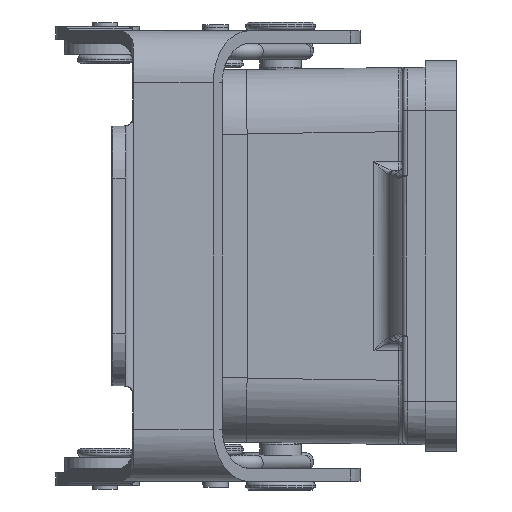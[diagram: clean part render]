
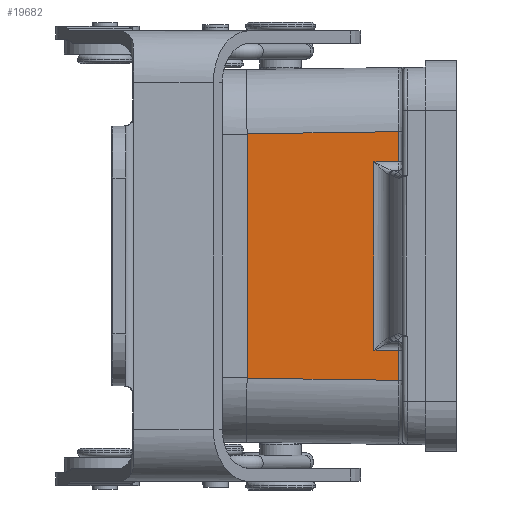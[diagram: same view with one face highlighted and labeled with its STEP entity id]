
A CAD part, left-side view. The second image highlights one B-rep face of the part: STEP entity #19682.
In plain terms, the highlighted planar face has unit normal (-1, 0.014, 0).
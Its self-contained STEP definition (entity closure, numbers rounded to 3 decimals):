
#62 = CARTESIAN_POINT ( 'NONE',  ( -46.832, 16.098, -14.183 ) ) ;
#792 = EDGE_LOOP ( 'NONE', ( #30893, #11437, #31964, #22541, #5954, #8184, #7617, #6852 ) ) ;
#2066 = EDGE_CURVE ( 'NONE', #3190, #6887, #24620, .T. ) ;
#3190 = VERTEX_POINT ( 'NONE', #5761 ) ;
#4366 = VERTEX_POINT ( 'NONE', #4445 ) ;
#4445 = CARTESIAN_POINT ( 'NONE',  ( -46.994, 4.493, 14.345 ) ) ;
#4811 = DIRECTION ( 'NONE',  ( 0., 0., -1. ) ) ;
#4868 = LINE ( 'NONE', #28540, #20600 ) ;
#5203 = VECTOR ( 'NONE', #18786, 1000. ) ;
#5321 = DIRECTION ( 'NONE',  ( -0.014, -1., 0.014 ) ) ;
#5761 = CARTESIAN_POINT ( 'NONE',  ( -46.994, 4.493, -14.345 ) ) ;
#5954 = ORIENTED_EDGE ( 'NONE', *, *, #20522, .T. ) ;
#6852 = ORIENTED_EDGE ( 'NONE', *, *, #20881, .T. ) ;
#6887 = VERTEX_POINT ( 'NONE', #18365 ) ;
#7617 = ORIENTED_EDGE ( 'NONE', *, *, #23057, .T. ) ;
#7979 = CARTESIAN_POINT ( 'NONE',  ( -46.746, 22.211, 14.098 ) ) ;
#8184 = ORIENTED_EDGE ( 'NONE', *, *, #27362, .T. ) ;
#8290 = CARTESIAN_POINT ( 'NONE',  ( -46.913, 10.295, -14.264 ) ) ;
#8713 = PLANE ( 'NONE',  #16619 ) ;
#8868 = VECTOR ( 'NONE', #30667, 1000. ) ;
#9817 = CARTESIAN_POINT ( 'NONE',  ( -46.994, 4.493, -10.869 ) ) ;
#10267 = LINE ( 'NONE', #7979, #20045 ) ;
#10346 = VERTEX_POINT ( 'NONE', #9817 ) ;
#10631 = VERTEX_POINT ( 'NONE', #14102 ) ;
#11437 = ORIENTED_EDGE ( 'NONE', *, *, #30558, .T. ) ;
#11626 = DIRECTION ( 'NONE',  ( -0.014, -1., 0. ) ) ;
#12082 = LINE ( 'NONE', #18650, #5203 ) ;
#12102 = CARTESIAN_POINT ( 'NONE',  ( -46.954, 7.324, -23.975 ) ) ;
#12516 = LINE ( 'NONE', #31359, #31158 ) ;
#13722 = CARTESIAN_POINT ( 'NONE',  ( -46.751, 21.9, 14.102 ) ) ;
#14097 = DIRECTION ( 'NONE',  ( 0.014, 1., 0. ) ) ;
#14102 = CARTESIAN_POINT ( 'NONE',  ( -46.994, 4.493, 10.869 ) ) ;
#14551 = DIRECTION ( 'NONE',  ( 0., 0., 1. ) ) ;
#14821 = CARTESIAN_POINT ( 'NONE',  ( -46.954, 7.324, -10.869 ) ) ;
#16619 = AXIS2_PLACEMENT_3D ( 'NONE', #30263, #22208, #14097 ) ;
#18001 = DIRECTION ( 'NONE',  ( 0.014, 1., 0. ) ) ;
#18365 = CARTESIAN_POINT ( 'NONE',  ( -46.751, 21.9, -14.102 ) ) ;
#18650 = CARTESIAN_POINT ( 'NONE',  ( -46.994, 4.493, -23.975 ) ) ;
#18786 = DIRECTION ( 'NONE',  ( 0., 0., 1. ) ) ;
#19106 = CARTESIAN_POINT ( 'NONE',  ( -46.954, 7.324, 10.869 ) ) ;
#19682 = ADVANCED_FACE ( 'NONE', ( #28218 ), #8713, .T. ) ;
#20045 = VECTOR ( 'NONE', #5321, 1000. ) ;
#20457 = VECTOR ( 'NONE', #11626, 1000. ) ;
#20522 = EDGE_CURVE ( 'NONE', #10346, #26775, #12516, .T. ) ;
#20600 = VECTOR ( 'NONE', #4811, 1000. ) ;
#20881 = EDGE_CURVE ( 'NONE', #10631, #4366, #12082, .T. ) ;
#21733 = VECTOR ( 'NONE', #14551, 1000. ) ;
#22024 = VERTEX_POINT ( 'NONE', #13722 ) ;
#22208 = DIRECTION ( 'NONE',  ( -1., 0.014, 0. ) ) ;
#22541 = ORIENTED_EDGE ( 'NONE', *, *, #34555, .T. ) ;
#22549 = LINE ( 'NONE', #27827, #20457 ) ;
#22893 = VERTEX_POINT ( 'NONE', #19106 ) ;
#23057 = EDGE_CURVE ( 'NONE', #22893, #10631, #22549, .T. ) ;
#24521 = CARTESIAN_POINT ( 'NONE',  ( -46.994, 4.493, -14.345 ) ) ;
#24620 = B_SPLINE_CURVE_WITH_KNOTS ( 'NONE', 3,
 ( #24521, #8290, #62, #32572 ),
 .UNSPECIFIED., .F., .F.,
 ( 4, 4 ),
 ( 0., 0.994 ),
 .UNSPECIFIED. ) ;
#26231 = LINE ( 'NONE', #12102, #8868 ) ;
#26775 = VERTEX_POINT ( 'NONE', #14821 ) ;
#27362 = EDGE_CURVE ( 'NONE', #26775, #22893, #26231, .T. ) ;
#27827 = CARTESIAN_POINT ( 'NONE',  ( -46.749, 22., 10.869 ) ) ;
#28218 = FACE_OUTER_BOUND ( 'NONE', #792, .T. ) ;
#28508 = LINE ( 'NONE', #30968, #21733 ) ;
#28540 = CARTESIAN_POINT ( 'NONE',  ( -46.751, 21.9, 14. ) ) ;
#30263 = CARTESIAN_POINT ( 'NONE',  ( -46.749, 22., -23.975 ) ) ;
#30558 = EDGE_CURVE ( 'NONE', #22024, #6887, #4868, .T. ) ;
#30667 = DIRECTION ( 'NONE',  ( 0., 0., 1. ) ) ;
#30893 = ORIENTED_EDGE ( 'NONE', *, *, #34971, .F. ) ;
#30968 = CARTESIAN_POINT ( 'NONE',  ( -46.994, 4.493, -23.975 ) ) ;
#31158 = VECTOR ( 'NONE', #18001, 1000. ) ;
#31359 = CARTESIAN_POINT ( 'NONE',  ( -46.749, 22., -10.869 ) ) ;
#31964 = ORIENTED_EDGE ( 'NONE', *, *, #2066, .F. ) ;
#32572 = CARTESIAN_POINT ( 'NONE',  ( -46.751, 21.9, -14.102 ) ) ;
#34555 = EDGE_CURVE ( 'NONE', #3190, #10346, #28508, .T. ) ;
#34971 = EDGE_CURVE ( 'NONE', #22024, #4366, #10267, .T. ) ;
